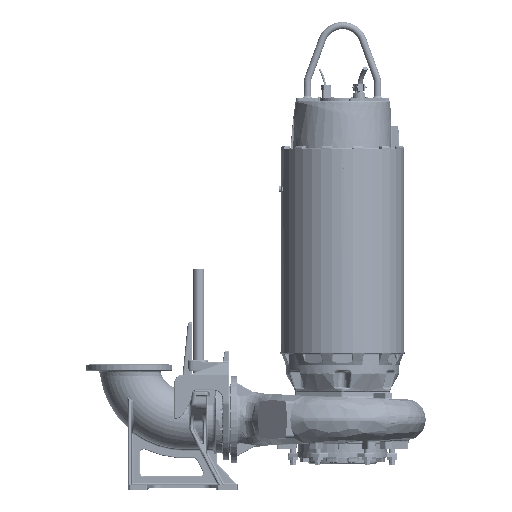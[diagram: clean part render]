
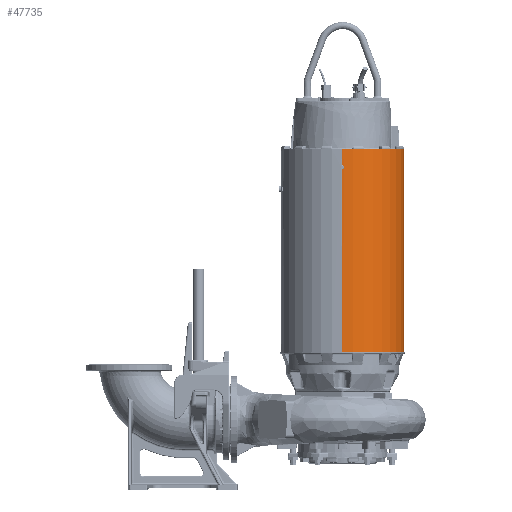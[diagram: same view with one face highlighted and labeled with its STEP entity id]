
A CAD part, top view. The second image highlights one B-rep face of the part: STEP entity #47735.
In plain terms, the highlighted cylindrical face has radius 344 mm (diameter 688 mm), a partial arc.
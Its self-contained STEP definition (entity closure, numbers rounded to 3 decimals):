
#3481 = CARTESIAN_POINT ( 'NONE',  ( 6.334, 1012.313, -343.956 ) ) ;
#6620 = EDGE_CURVE ( 'NONE', #362161, #281880, #187953, .T. ) ;
#7881 = DIRECTION ( 'NONE',  ( 0., -1., 0. ) ) ;
#13972 = EDGE_LOOP ( 'NONE', ( #253133, #328248, #145291, #55751, #247097, #157652, #139979, #250680, #361870, #210592, #89901, #192008 ) ) ;
#15443 = CIRCLE ( 'NONE', #282495, 344. ) ;
#20888 = CARTESIAN_POINT ( 'NONE',  ( 0., 1105., -344. ) ) ;
#23346 = CARTESIAN_POINT ( 'NONE',  ( 9.5, 1245.349, 343.869 ) ) ;
#30866 = CARTESIAN_POINT ( 'NONE',  ( 0., 1015.97, -344. ) ) ;
#32589 = CARTESIAN_POINT ( 'NONE',  ( 0., 994.03, -344. ) ) ;
#36501 = CARTESIAN_POINT ( 'NONE',  ( 0., 994.03, 344. ) ) ;
#47735 = ADVANCED_FACE ( 'NONE', ( #253938 ), #218085, .T. ) ;
#49040 = VERTEX_POINT ( 'NONE', #193589 ) ;
#49283 = CARTESIAN_POINT ( 'NONE',  ( 3.167, 1014.141, 344. ) ) ;
#49341 = VECTOR ( 'NONE', #192664, 1000. ) ;
#52985 = CARTESIAN_POINT ( 'NONE',  ( 9.5, 1010.485, 343.869 ) ) ;
#55751 = ORIENTED_EDGE ( 'NONE', *, *, #141758, .T. ) ;
#64864 = CARTESIAN_POINT ( 'NONE',  ( 0., -20., -344. ) ) ;
#67211 = DIRECTION ( 'NONE',  ( 0., -1., 0. ) ) ;
#67248 = CARTESIAN_POINT ( 'NONE',  ( 3.167, 995.859, 344. ) ) ;
#79359 = VERTEX_POINT ( 'NONE', #20888 ) ;
#85647 = AXIS2_PLACEMENT_3D ( 'NONE', #111114, #310451, #139830 ) ;
#89901 = ORIENTED_EDGE ( 'NONE', *, *, #352056, .F. ) ;
#93341 = VECTOR ( 'NONE', #196823, 1000. ) ;
#94016 = EDGE_CURVE ( 'NONE', #123298, #123882, #196233, .T. ) ;
#97434 = VERTEX_POINT ( 'NONE', #127630 ) ;
#97777 = EDGE_CURVE ( 'NONE', #97434, #362161, #277098, .T. ) ;
#98144 =( BOUNDED_CURVE ( )  B_SPLINE_CURVE ( 3, ( #30866, #344804, #3481, #202667 ),
 .UNSPECIFIED., .F., .F. ) 
 B_SPLINE_CURVE_WITH_KNOTS ( ( 4, 4 ),
 ( 1.571, 1.598 ),
 .UNSPECIFIED. ) 
 CURVE ( )  GEOMETRIC_REPRESENTATION_ITEM ( )  RATIONAL_B_SPLINE_CURVE ( ( 1., 1., 1., 1. ) ) 
 REPRESENTATION_ITEM ( '' )  );
#107646 = VERTEX_POINT ( 'NONE', #196343 ) ;
#111052 = VECTOR ( 'NONE', #214887, 1000. ) ;
#111114 = CARTESIAN_POINT ( 'NONE',  ( 0., -20., 0. ) ) ;
#119859 = LINE ( 'NONE', #292168, #338240 ) ;
#121560 = DIRECTION ( 'NONE',  ( 0., -1., 0. ) ) ;
#123298 = VERTEX_POINT ( 'NONE', #314853 ) ;
#123882 = VERTEX_POINT ( 'NONE', #32589 ) ;
#125781 = AXIS2_PLACEMENT_3D ( 'NONE', #339578, #196204, #312212 ) ;
#127630 = CARTESIAN_POINT ( 'NONE',  ( 9.5, 999.515, 343.869 ) ) ;
#132206 = EDGE_CURVE ( 'NONE', #260177, #123298, #311787, .T. ) ;
#136938 = CARTESIAN_POINT ( 'NONE',  ( 0., 1015.97, 344. ) ) ;
#137156 = CARTESIAN_POINT ( 'NONE',  ( 0., 994.03, -344. ) ) ;
#139830 = DIRECTION ( 'NONE',  ( 1., 0., 0. ) ) ;
#139979 = ORIENTED_EDGE ( 'NONE', *, *, #202829, .F. ) ;
#141758 = EDGE_CURVE ( 'NONE', #217007, #97434, #200879, .T. ) ;
#145291 = ORIENTED_EDGE ( 'NONE', *, *, #194536, .T. ) ;
#152013 = CARTESIAN_POINT ( 'NONE',  ( 6.334, 997.687, 343.956 ) ) ;
#157652 = ORIENTED_EDGE ( 'NONE', *, *, #6620, .T. ) ;
#178364 = CARTESIAN_POINT ( 'NONE',  ( 0., 1105., 0. ) ) ;
#180597 = CARTESIAN_POINT ( 'NONE',  ( 9.5, 999.515, 343.869 ) ) ;
#187953 = LINE ( 'NONE', #237866, #254960 ) ;
#191744 = CARTESIAN_POINT ( 'NONE',  ( 9.5, 999.515, -343.869 ) ) ;
#192008 = ORIENTED_EDGE ( 'NONE', *, *, #318825, .F. ) ;
#192664 = DIRECTION ( 'NONE',  ( 0., -1., 0. ) ) ;
#193589 = CARTESIAN_POINT ( 'NONE',  ( 0., 1015.97, -344. ) ) ;
#194536 = EDGE_CURVE ( 'NONE', #295365, #217007, #336691, .T. ) ;
#196204 = DIRECTION ( 'NONE',  ( 0., -1., 0. ) ) ;
#196233 =( BOUNDED_CURVE ( )  B_SPLINE_CURVE ( 3, ( #191744, #279129, #307755, #137156 ),
 .UNSPECIFIED., .F., .T. ) 
 B_SPLINE_CURVE_WITH_KNOTS ( ( 4, 4 ),
 ( 1.543, 1.571 ),
 .UNSPECIFIED. ) 
 CURVE ( )  GEOMETRIC_REPRESENTATION_ITEM ( )  RATIONAL_B_SPLINE_CURVE ( ( 1., 1., 1., 1. ) ) 
 REPRESENTATION_ITEM ( '' )  );
#196343 = CARTESIAN_POINT ( 'NONE',  ( 0., 1105., 344. ) ) ;
#196823 = DIRECTION ( 'NONE',  ( 0., -1., 0. ) ) ;
#199021 = VECTOR ( 'NONE', #304797, 1000. ) ;
#200879 = LINE ( 'NONE', #23346, #49341 ) ;
#201967 = CARTESIAN_POINT ( 'NONE',  ( 9.5, 1010.485, 343.869 ) ) ;
#202667 = CARTESIAN_POINT ( 'NONE',  ( 9.5, 1010.485, -343.869 ) ) ;
#202829 = EDGE_CURVE ( 'NONE', #231965, #281880, #320582, .T. ) ;
#207067 = DIRECTION ( 'NONE',  ( 0., 0., -1. ) ) ;
#210592 = ORIENTED_EDGE ( 'NONE', *, *, #132206, .F. ) ;
#214887 = DIRECTION ( 'NONE',  ( 0., -1., 0. ) ) ;
#217007 = VERTEX_POINT ( 'NONE', #201967 ) ;
#218085 = CYLINDRICAL_SURFACE ( 'NONE', #125781, 344. ) ;
#223615 = CARTESIAN_POINT ( 'NONE',  ( 6.334, 1012.313, 343.956 ) ) ;
#231318 = EDGE_CURVE ( 'NONE', #123882, #231965, #119859, .T. ) ;
#231965 = VERTEX_POINT ( 'NONE', #64864 ) ;
#237866 = CARTESIAN_POINT ( 'NONE',  ( 0., 0., 344. ) ) ;
#243148 = CARTESIAN_POINT ( 'NONE',  ( 9.5, 1010.485, -343.869 ) ) ;
#247097 = ORIENTED_EDGE ( 'NONE', *, *, #97777, .T. ) ;
#248255 = EDGE_CURVE ( 'NONE', #79359, #107646, #15443, .T. ) ;
#250680 = ORIENTED_EDGE ( 'NONE', *, *, #231318, .F. ) ;
#253133 = ORIENTED_EDGE ( 'NONE', *, *, #248255, .T. ) ;
#253938 = FACE_OUTER_BOUND ( 'NONE', #13972, .T. ) ;
#254960 = VECTOR ( 'NONE', #67211, 1000. ) ;
#260177 = VERTEX_POINT ( 'NONE', #243148 ) ;
#266625 = CARTESIAN_POINT ( 'NONE',  ( 0., 994.03, 344. ) ) ;
#274954 = LINE ( 'NONE', #276138, #199021 ) ;
#276138 = CARTESIAN_POINT ( 'NONE',  ( 0., 0., 344. ) ) ;
#277098 =( BOUNDED_CURVE ( )  B_SPLINE_CURVE ( 3, ( #180597, #152013, #67248, #266625 ),
 .UNSPECIFIED., .F., .T. ) 
 B_SPLINE_CURVE_WITH_KNOTS ( ( 4, 4 ),
 ( 1.543, 1.571 ),
 .UNSPECIFIED. ) 
 CURVE ( )  GEOMETRIC_REPRESENTATION_ITEM ( )  RATIONAL_B_SPLINE_CURVE ( ( 1., 1., 1., 1. ) ) 
 REPRESENTATION_ITEM ( '' )  );
#279129 = CARTESIAN_POINT ( 'NONE',  ( 6.334, 997.687, -343.956 ) ) ;
#281880 = VERTEX_POINT ( 'NONE', #330491 ) ;
#282495 = AXIS2_PLACEMENT_3D ( 'NONE', #178364, #7881, #207067 ) ;
#292168 = CARTESIAN_POINT ( 'NONE',  ( 0., 0., -344. ) ) ;
#295365 = VERTEX_POINT ( 'NONE', #136938 ) ;
#304797 = DIRECTION ( 'NONE',  ( 0., -1., 0. ) ) ;
#307755 = CARTESIAN_POINT ( 'NONE',  ( 3.167, 995.859, -344. ) ) ;
#310451 = DIRECTION ( 'NONE',  ( 0., -1., 0. ) ) ;
#311787 = LINE ( 'NONE', #365182, #93341 ) ;
#312212 = DIRECTION ( 'NONE',  ( 0., 0., -1. ) ) ;
#314853 = CARTESIAN_POINT ( 'NONE',  ( 9.5, 999.515, -343.869 ) ) ;
#318825 = EDGE_CURVE ( 'NONE', #79359, #49040, #338394, .T. ) ;
#320582 = CIRCLE ( 'NONE', #85647, 344. ) ;
#328248 = ORIENTED_EDGE ( 'NONE', *, *, #348012, .T. ) ;
#328408 = CARTESIAN_POINT ( 'NONE',  ( 0., 0., -344. ) ) ;
#330491 = CARTESIAN_POINT ( 'NONE',  ( 0., -20., 344. ) ) ;
#336691 =( BOUNDED_CURVE ( )  B_SPLINE_CURVE ( 3, ( #365756, #49283, #223615, #52985 ),
 .UNSPECIFIED., .F., .F. ) 
 B_SPLINE_CURVE_WITH_KNOTS ( ( 4, 4 ),
 ( 1.571, 1.598 ),
 .UNSPECIFIED. ) 
 CURVE ( )  GEOMETRIC_REPRESENTATION_ITEM ( )  RATIONAL_B_SPLINE_CURVE ( ( 1., 1., 1., 1. ) ) 
 REPRESENTATION_ITEM ( '' )  );
#338240 = VECTOR ( 'NONE', #121560, 1000. ) ;
#338394 = LINE ( 'NONE', #328408, #111052 ) ;
#339578 = CARTESIAN_POINT ( 'NONE',  ( 0., 0., 0. ) ) ;
#344804 = CARTESIAN_POINT ( 'NONE',  ( 3.167, 1014.141, -344. ) ) ;
#348012 = EDGE_CURVE ( 'NONE', #107646, #295365, #274954, .T. ) ;
#352056 = EDGE_CURVE ( 'NONE', #49040, #260177, #98144, .T. ) ;
#361870 = ORIENTED_EDGE ( 'NONE', *, *, #94016, .F. ) ;
#362161 = VERTEX_POINT ( 'NONE', #36501 ) ;
#365182 = CARTESIAN_POINT ( 'NONE',  ( 9.5, 1245.349, -343.869 ) ) ;
#365756 = CARTESIAN_POINT ( 'NONE',  ( 0., 1015.97, 344. ) ) ;
